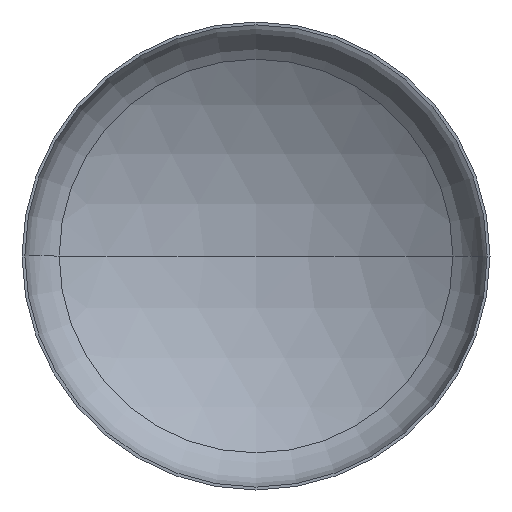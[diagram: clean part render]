
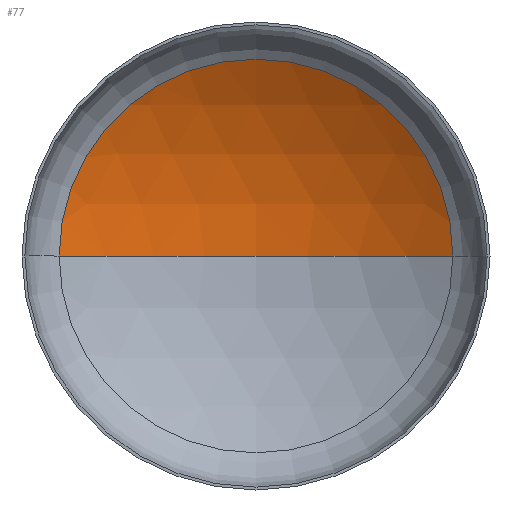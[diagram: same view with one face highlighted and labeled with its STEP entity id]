
A CAD part, front view. The second image highlights one B-rep face of the part: STEP entity #77.
In plain terms, the highlighted spherical face has radius 2720 mm.
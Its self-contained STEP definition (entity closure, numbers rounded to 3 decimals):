
#1 = FACE_OUTER_BOUND ( 'NONE', #42, .T. ) ;
#5 = AXIS2_PLACEMENT_3D ( 'NONE', #300, #173, #175 ) ;
#7 = ORIENTED_EDGE ( 'NONE', *, *, #339, .F. ) ;
#32 = AXIS2_PLACEMENT_3D ( 'NONE', #229, #225, #228 ) ;
#35 = AXIS2_PLACEMENT_3D ( 'NONE', #189, #331, #361 ) ;
#42 = EDGE_LOOP ( 'NONE', ( #7, #177, #134 ) ) ;
#49 = AXIS2_PLACEMENT_3D ( 'NONE', #322, #359, #352 ) ;
#59 = VERTEX_POINT ( 'NONE', #298 ) ;
#77 = ADVANCED_FACE ( 'NONE', ( #1 ), #403, .F. ) ;
#82 = VERTEX_POINT ( 'NONE', #317 ) ;
#120 = CIRCLE ( 'NONE', #32, 2720. ) ;
#134 = ORIENTED_EDGE ( 'NONE', *, *, #138, .T. ) ;
#138 = EDGE_CURVE ( 'NONE', #82, #59, #340, .T. ) ;
#156 = VERTEX_POINT ( 'NONE', #199 ) ;
#168 = EDGE_CURVE ( 'NONE', #156, #82, #120, .T. ) ;
#173 = DIRECTION ( 'NONE',  ( 0., 0., 1. ) ) ;
#175 = DIRECTION ( 'NONE',  ( 1., 0., 0. ) ) ;
#177 = ORIENTED_EDGE ( 'NONE', *, *, #168, .T. ) ;
#189 = CARTESIAN_POINT ( 'NONE',  ( 0., 516.589, 0. ) ) ;
#199 = CARTESIAN_POINT ( 'NONE',  ( 0., 922.834, 0. ) ) ;
#225 = DIRECTION ( 'NONE',  ( 0., 0., -1. ) ) ;
#228 = DIRECTION ( 'NONE',  ( -1., 0., 0. ) ) ;
#229 = CARTESIAN_POINT ( 'NONE',  ( 0., -1797.166, 0. ) ) ;
#298 = CARTESIAN_POINT ( 'NONE',  ( -1430.014, 516.589, 0. ) ) ;
#300 = CARTESIAN_POINT ( 'NONE',  ( 0., -1797.166, 0. ) ) ;
#317 = CARTESIAN_POINT ( 'NONE',  ( 1430.014, 516.589, 0. ) ) ;
#322 = CARTESIAN_POINT ( 'NONE',  ( 0., -1797.166, 0. ) ) ;
#331 = DIRECTION ( 'NONE',  ( 0., -1., 0. ) ) ;
#339 = EDGE_CURVE ( 'NONE', #156, #59, #386, .T. ) ;
#340 = CIRCLE ( 'NONE', #35, 1430.014 ) ;
#352 = DIRECTION ( 'NONE',  ( -1., 0., 0. ) ) ;
#359 = DIRECTION ( 'NONE',  ( 0., 0., -1. ) ) ;
#361 = DIRECTION ( 'NONE',  ( 1., 0., 0. ) ) ;
#386 = CIRCLE ( 'NONE', #5, 2720. ) ;
#403 = SPHERICAL_SURFACE ( 'NONE', #49, 2720. ) ;
